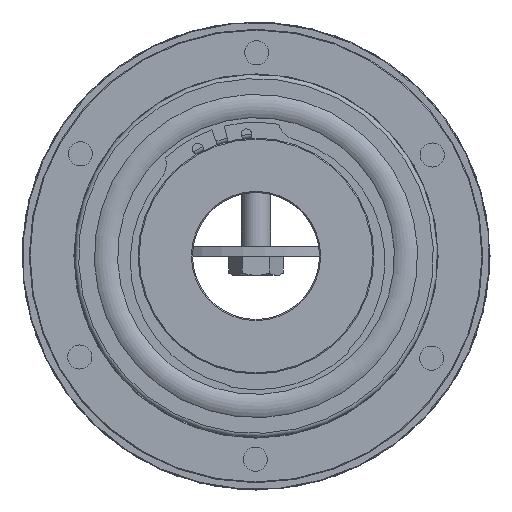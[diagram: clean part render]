
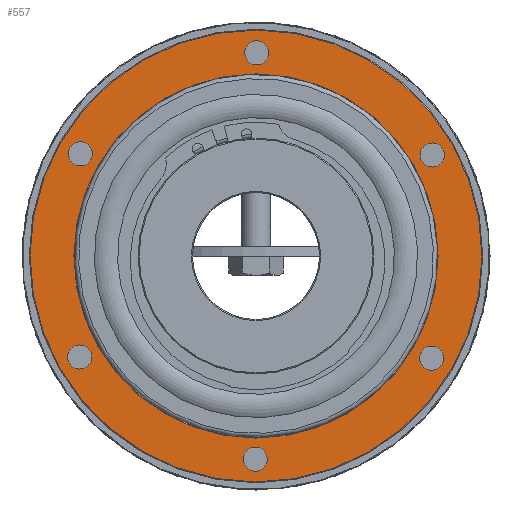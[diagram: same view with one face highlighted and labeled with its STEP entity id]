
A CAD part, left-side view. The second image highlights one B-rep face of the part: STEP entity #557.
In plain terms, the highlighted planar face has unit normal (-1, 0, 0).
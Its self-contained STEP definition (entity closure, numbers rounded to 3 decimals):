
#557 = ADVANCED_FACE( '', ( #1050, #1051, #1052, #1053, #1054, #1055, #1056, #1057 ), #1058, .F. );
#1050 = FACE_OUTER_BOUND( '', #1571, .T. );
#1051 = FACE_BOUND( '', #1572, .T. );
#1052 = FACE_BOUND( '', #1573, .T. );
#1053 = FACE_BOUND( '', #1574, .T. );
#1054 = FACE_BOUND( '', #1575, .T. );
#1055 = FACE_BOUND( '', #1576, .T. );
#1056 = FACE_BOUND( '', #1577, .T. );
#1057 = FACE_BOUND( '', #1578, .T. );
#1058 = PLANE( '', #1579 );
#1571 = EDGE_LOOP( '', ( #2527 ) );
#1572 = EDGE_LOOP( '', ( #2528 ) );
#1573 = EDGE_LOOP( '', ( #2529 ) );
#1574 = EDGE_LOOP( '', ( #2530 ) );
#1575 = EDGE_LOOP( '', ( #2531 ) );
#1576 = EDGE_LOOP( '', ( #2532 ) );
#1577 = EDGE_LOOP( '', ( #2533 ) );
#1578 = EDGE_LOOP( '', ( #2534 ) );
#1579 = AXIS2_PLACEMENT_3D( '', #2535, #2536, #2537 );
#2527 = ORIENTED_EDGE( '', *, *, #3015, .T. );
#2528 = ORIENTED_EDGE( '', *, *, #3016, .T. );
#2529 = ORIENTED_EDGE( '', *, *, #3017, .T. );
#2530 = ORIENTED_EDGE( '', *, *, #3018, .T. );
#2531 = ORIENTED_EDGE( '', *, *, #3019, .T. );
#2532 = ORIENTED_EDGE( '', *, *, #3020, .T. );
#2533 = ORIENTED_EDGE( '', *, *, #3013, .T. );
#2534 = ORIENTED_EDGE( '', *, *, #3021, .T. );
#2535 = CARTESIAN_POINT( '', ( -24.15, 62.5, 0. ) );
#2536 = DIRECTION( '', ( 1., 0., 0. ) );
#2537 = DIRECTION( '', ( 0., 1., 0. ) );
#3013 = EDGE_CURVE( '', #3480, #3480, #3481, .T. );
#3015 = EDGE_CURVE( '', #3484, #3484, #3485, .T. );
#3016 = EDGE_CURVE( '', #3486, #3486, #3487, .T. );
#3017 = EDGE_CURVE( '', #3488, #3488, #3489, .T. );
#3018 = EDGE_CURVE( '', #3490, #3490, #3491, .T. );
#3019 = EDGE_CURVE( '', #3492, #3492, #3493, .T. );
#3020 = EDGE_CURVE( '', #3494, #3494, #3495, .T. );
#3021 = EDGE_CURVE( '', #3496, #3496, #3497, .T. );
#3480 = VERTEX_POINT( '', #4394 );
#3481 = CIRCLE( '', #4395, 3.324 );
#3484 = VERTEX_POINT( '', #4398 );
#3485 = CIRCLE( '', #4399, 62.3 );
#3486 = VERTEX_POINT( '', #4400 );
#3487 = CIRCLE( '', #4401, 50.2 );
#3488 = VERTEX_POINT( '', #4402 );
#3489 = CIRCLE( '', #4403, 3.324 );
#3490 = VERTEX_POINT( '', #4404 );
#3491 = CIRCLE( '', #4405, 3.324 );
#3492 = VERTEX_POINT( '', #4406 );
#3493 = CIRCLE( '', #4407, 3.324 );
#3494 = VERTEX_POINT( '', #4408 );
#3495 = CIRCLE( '', #4409, 3.324 );
#3496 = VERTEX_POINT( '', #4410 );
#3497 = CIRCLE( '', #4411, 3.324 );
#4394 = CARTESIAN_POINT( '', ( -24.15, -51.376, 29.662 ) );
#4395 = AXIS2_PLACEMENT_3D( '', #5027, #5028, #5029 );
#4398 = CARTESIAN_POINT( '', ( -24.15, 0., -62.3 ) );
#4399 = AXIS2_PLACEMENT_3D( '', #5033, #5034, #5035 );
#4400 = CARTESIAN_POINT( '', ( -24.15, 0., -50.2 ) );
#4401 = AXIS2_PLACEMENT_3D( '', #5036, #5037, #5038 );
#4402 = CARTESIAN_POINT( '', ( -24.15, 51.376, 29.662 ) );
#4403 = AXIS2_PLACEMENT_3D( '', #5039, #5040, #5041 );
#4404 = CARTESIAN_POINT( '', ( -24.15, 51.376, -29.662 ) );
#4405 = AXIS2_PLACEMENT_3D( '', #5042, #5043, #5044 );
#4406 = CARTESIAN_POINT( '', ( -24.15, 0., -59.324 ) );
#4407 = AXIS2_PLACEMENT_3D( '', #5045, #5046, #5047 );
#4408 = CARTESIAN_POINT( '', ( -24.15, -51.376, -29.662 ) );
#4409 = AXIS2_PLACEMENT_3D( '', #5048, #5049, #5050 );
#4410 = CARTESIAN_POINT( '', ( -24.15, 0., 59.324 ) );
#4411 = AXIS2_PLACEMENT_3D( '', #5051, #5052, #5053 );
#5027 = CARTESIAN_POINT( '', ( -24.15, -48.497, 28. ) );
#5028 = DIRECTION( '', ( 1., 0., 0. ) );
#5029 = DIRECTION( '', ( 0., -0.866, 0.5 ) );
#5033 = CARTESIAN_POINT( '', ( -24.15, 0., 0. ) );
#5034 = DIRECTION( '', ( -1., 0., 0. ) );
#5035 = DIRECTION( '', ( 0., 0., -1. ) );
#5036 = CARTESIAN_POINT( '', ( -24.15, 0., 0. ) );
#5037 = DIRECTION( '', ( 1., 0., 0. ) );
#5038 = DIRECTION( '', ( 0., 0., -1. ) );
#5039 = CARTESIAN_POINT( '', ( -24.15, 48.497, 28. ) );
#5040 = DIRECTION( '', ( 1., 0., 0. ) );
#5041 = DIRECTION( '', ( 0., 0.866, 0.5 ) );
#5042 = CARTESIAN_POINT( '', ( -24.15, 48.497, -28. ) );
#5043 = DIRECTION( '', ( 1., 0., 0. ) );
#5044 = DIRECTION( '', ( 0., 0.866, -0.5 ) );
#5045 = CARTESIAN_POINT( '', ( -24.15, 0., -56. ) );
#5046 = DIRECTION( '', ( 1., 0., 0. ) );
#5047 = DIRECTION( '', ( 0., 0., -1. ) );
#5048 = CARTESIAN_POINT( '', ( -24.15, -48.497, -28. ) );
#5049 = DIRECTION( '', ( 1., 0., 0. ) );
#5050 = DIRECTION( '', ( 0., -0.866, -0.5 ) );
#5051 = CARTESIAN_POINT( '', ( -24.15, 0., 56. ) );
#5052 = DIRECTION( '', ( 1., 0., 0. ) );
#5053 = DIRECTION( '', ( 0., 0., 1. ) );
